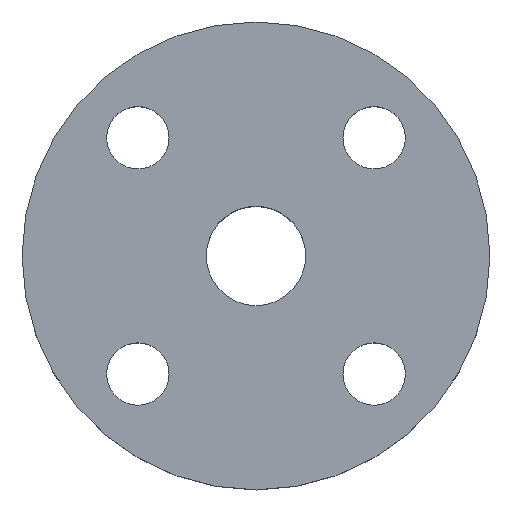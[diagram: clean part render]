
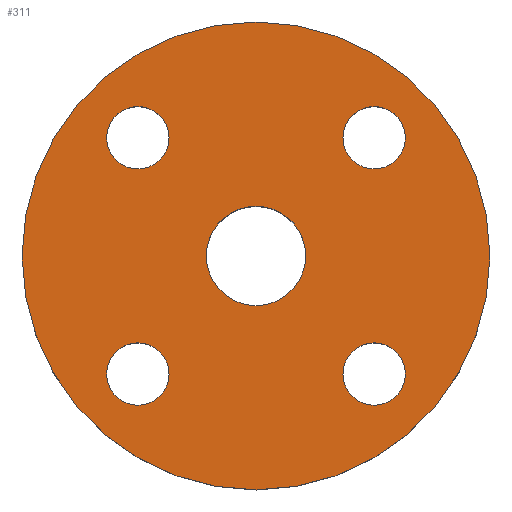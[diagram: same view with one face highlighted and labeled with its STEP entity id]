
A CAD part, top view. The second image highlights one B-rep face of the part: STEP entity #311.
In plain terms, the highlighted planar face has unit normal (0, 0, 1).
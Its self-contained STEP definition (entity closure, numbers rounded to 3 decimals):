
#28 = EDGE_LOOP ( 'NONE', ( #104, #120 ) ) ;
#34 = EDGE_CURVE ( 'NONE', #251, #446, #50, .T. ) ;
#46 = AXIS2_PLACEMENT_3D ( 'NONE', #606, #604, #603 ) ;
#50 = CIRCLE ( 'NONE', #685, 7. ) ;
#54 = CARTESIAN_POINT ( 'NONE',  ( 19.517, -26.517, 0. ) ) ;
#55 = CARTESIAN_POINT ( 'NONE',  ( -19.517, 26.517, 0. ) ) ;
#56 = CARTESIAN_POINT ( 'NONE',  ( -33.517, 26.517, 0. ) ) ;
#57 = CARTESIAN_POINT ( 'NONE',  ( -33.517, -26.517, 0. ) ) ;
#63 = CARTESIAN_POINT ( 'NONE',  ( 19.517, 26.517, 0. ) ) ;
#71 = CARTESIAN_POINT ( 'NONE',  ( -19.517, -26.517, 0. ) ) ;
#83 = AXIS2_PLACEMENT_3D ( 'NONE', #702, #670, #692 ) ;
#86 = ORIENTED_EDGE ( 'NONE', *, *, #400, .T. ) ;
#89 = ORIENTED_EDGE ( 'NONE', *, *, #651, .T. ) ;
#94 = EDGE_CURVE ( 'NONE', #262, #266, #441, .T. ) ;
#96 = ORIENTED_EDGE ( 'NONE', *, *, #611, .T. ) ;
#97 = ORIENTED_EDGE ( 'NONE', *, *, #402, .T. ) ;
#99 = CARTESIAN_POINT ( 'NONE',  ( -52.5, 0., 0. ) ) ;
#100 = CARTESIAN_POINT ( 'NONE',  ( 0., 0., 0. ) ) ;
#101 = ORIENTED_EDGE ( 'NONE', *, *, #135, .T. ) ;
#102 = ORIENTED_EDGE ( 'NONE', *, *, #574, .T. ) ;
#103 = DIRECTION ( 'NONE',  ( 0., 0., -1. ) ) ;
#104 = ORIENTED_EDGE ( 'NONE', *, *, #392, .T. ) ;
#105 = DIRECTION ( 'NONE',  ( -1., 0., 0. ) ) ;
#113 = CARTESIAN_POINT ( 'NONE',  ( 52.5, 0., 0. ) ) ;
#118 = CARTESIAN_POINT ( 'NONE',  ( 33.517, -26.517, 0. ) ) ;
#120 = ORIENTED_EDGE ( 'NONE', *, *, #34, .T. ) ;
#122 = CARTESIAN_POINT ( 'NONE',  ( -11.15, 0., 0. ) ) ;
#127 = ORIENTED_EDGE ( 'NONE', *, *, #263, .T. ) ;
#129 = ORIENTED_EDGE ( 'NONE', *, *, #674, .T. ) ;
#134 = ORIENTED_EDGE ( 'NONE', *, *, #694, .T. ) ;
#135 = EDGE_CURVE ( 'NONE', #216, #220, #388, .T. ) ;
#145 = CIRCLE ( 'NONE', #46, 52.5 ) ;
#146 = ORIENTED_EDGE ( 'NONE', *, *, #94, .T. ) ;
#156 = CIRCLE ( 'NONE', #175, 11.15 ) ;
#175 = AXIS2_PLACEMENT_3D ( 'NONE', #613, #608, #607 ) ;
#176 = AXIS2_PLACEMENT_3D ( 'NONE', #322, #327, #329 ) ;
#214 = VERTEX_POINT ( 'NONE', #54 ) ;
#216 = VERTEX_POINT ( 'NONE', #55 ) ;
#220 = VERTEX_POINT ( 'NONE', #56 ) ;
#226 = FACE_BOUND ( 'NONE', #245, .T. ) ;
#229 = VERTEX_POINT ( 'NONE', #57 ) ;
#230 = FACE_BOUND ( 'NONE', #274, .T. ) ;
#231 = FACE_BOUND ( 'NONE', #252, .T. ) ;
#238 = FACE_BOUND ( 'NONE', #28, .T. ) ;
#244 = FACE_BOUND ( 'NONE', #293, .T. ) ;
#245 = EDGE_LOOP ( 'NONE', ( #86, #89 ) ) ;
#246 = FACE_OUTER_BOUND ( 'NONE', #433, .T. ) ;
#247 = PLANE ( 'NONE',  #729 ) ;
#251 = VERTEX_POINT ( 'NONE', #63 ) ;
#252 = EDGE_LOOP ( 'NONE', ( #101, #102 ) ) ;
#255 = VERTEX_POINT ( 'NONE', #71 ) ;
#262 = VERTEX_POINT ( 'NONE', #99 ) ;
#263 = EDGE_CURVE ( 'NONE', #279, #445, #460, .T. ) ;
#266 = VERTEX_POINT ( 'NONE', #113 ) ;
#274 = EDGE_LOOP ( 'NONE', ( #96, #97 ) ) ;
#276 = VERTEX_POINT ( 'NONE', #118 ) ;
#279 = VERTEX_POINT ( 'NONE', #122 ) ;
#280 = CARTESIAN_POINT ( 'NONE',  ( 0., 0., 0. ) ) ;
#285 = DIRECTION ( 'NONE',  ( 0., 0., 1. ) ) ;
#293 = EDGE_LOOP ( 'NONE', ( #127, #129 ) ) ;
#299 = DIRECTION ( 'NONE',  ( 1., 0., 0. ) ) ;
#311 = ADVANCED_FACE ( 'NONE', ( #226, #230, #231, #238, #244, #246 ), #247, .T. ) ;
#322 = CARTESIAN_POINT ( 'NONE',  ( 26.517, 26.517, 0. ) ) ;
#327 = DIRECTION ( 'NONE',  ( 0., 0., -1. ) ) ;
#329 = DIRECTION ( 'NONE',  ( -1., 0., 0. ) ) ;
#336 = CARTESIAN_POINT ( 'NONE',  ( 26.517, 26.517, 0. ) ) ;
#338 = DIRECTION ( 'NONE',  ( 0., 0., -1. ) ) ;
#341 = DIRECTION ( 'NONE',  ( -1., 0., 0. ) ) ;
#346 = CARTESIAN_POINT ( 'NONE',  ( 26.517, -26.517, 0. ) ) ;
#347 = DIRECTION ( 'NONE',  ( 0., 0., -1. ) ) ;
#348 = DIRECTION ( 'NONE',  ( -1., 0., 0. ) ) ;
#352 = CARTESIAN_POINT ( 'NONE',  ( -26.517, -26.517, 0. ) ) ;
#354 = DIRECTION ( 'NONE',  ( 0., 0., -1. ) ) ;
#358 = DIRECTION ( 'NONE',  ( -1., 0., 0. ) ) ;
#382 = CARTESIAN_POINT ( 'NONE',  ( 11.15, 0., 0. ) ) ;
#384 = CARTESIAN_POINT ( 'NONE',  ( 33.517, 26.517, 0. ) ) ;
#388 = CIRCLE ( 'NONE', #577, 7. ) ;
#392 = EDGE_CURVE ( 'NONE', #446, #251, #621, .T. ) ;
#400 = EDGE_CURVE ( 'NONE', #276, #214, #438, .T. ) ;
#402 = EDGE_CURVE ( 'NONE', #229, #255, #727, .T. ) ;
#408 = CARTESIAN_POINT ( 'NONE',  ( 0., 0., 0. ) ) ;
#409 = DIRECTION ( 'NONE',  ( 0., 0., 1. ) ) ;
#411 = DIRECTION ( 'NONE',  ( 1., 0., 0. ) ) ;
#433 = EDGE_LOOP ( 'NONE', ( #134, #146 ) ) ;
#438 = CIRCLE ( 'NONE', #487, 7. ) ;
#441 = CIRCLE ( 'NONE', #735, 52.5 ) ;
#445 = VERTEX_POINT ( 'NONE', #382 ) ;
#446 = VERTEX_POINT ( 'NONE', #384 ) ;
#460 = CIRCLE ( 'NONE', #502, 11.15 ) ;
#487 = AXIS2_PLACEMENT_3D ( 'NONE', #346, #347, #348 ) ;
#489 = DIRECTION ( 'NONE',  ( 0., 0., -1. ) ) ;
#490 = CARTESIAN_POINT ( 'NONE',  ( -26.517, 26.517, 0. ) ) ;
#495 = DIRECTION ( 'NONE',  ( -1., 0., 0. ) ) ;
#502 = AXIS2_PLACEMENT_3D ( 'NONE', #100, #103, #105 ) ;
#511 = CIRCLE ( 'NONE', #83, 7. ) ;
#512 = AXIS2_PLACEMENT_3D ( 'NONE', #352, #354, #358 ) ;
#543 = CIRCLE ( 'NONE', #666, 7. ) ;
#574 = EDGE_CURVE ( 'NONE', #220, #216, #511, .T. ) ;
#577 = AXIS2_PLACEMENT_3D ( 'NONE', #490, #489, #495 ) ;
#603 = DIRECTION ( 'NONE',  ( 1., 0., 0. ) ) ;
#604 = DIRECTION ( 'NONE',  ( 0., 0., 1. ) ) ;
#606 = CARTESIAN_POINT ( 'NONE',  ( 0., 0., 0. ) ) ;
#607 = DIRECTION ( 'NONE',  ( -1., 0., 0. ) ) ;
#608 = DIRECTION ( 'NONE',  ( 0., 0., -1. ) ) ;
#611 = EDGE_CURVE ( 'NONE', #255, #229, #733, .T. ) ;
#613 = CARTESIAN_POINT ( 'NONE',  ( 0., 0., 0. ) ) ;
#619 = DIRECTION ( 'NONE',  ( -1., 0., 0. ) ) ;
#620 = DIRECTION ( 'NONE',  ( 0., 0., -1. ) ) ;
#621 = CIRCLE ( 'NONE', #176, 7. ) ;
#622 = CARTESIAN_POINT ( 'NONE',  ( 26.517, -26.517, 0. ) ) ;
#635 = DIRECTION ( 'NONE',  ( -1., 0., 0. ) ) ;
#636 = DIRECTION ( 'NONE',  ( 0., 0., -1. ) ) ;
#640 = CARTESIAN_POINT ( 'NONE',  ( -26.517, -26.517, 0. ) ) ;
#651 = EDGE_CURVE ( 'NONE', #214, #276, #543, .T. ) ;
#666 = AXIS2_PLACEMENT_3D ( 'NONE', #622, #620, #619 ) ;
#670 = DIRECTION ( 'NONE',  ( 0., 0., -1. ) ) ;
#674 = EDGE_CURVE ( 'NONE', #445, #279, #156, .T. ) ;
#685 = AXIS2_PLACEMENT_3D ( 'NONE', #336, #338, #341 ) ;
#692 = DIRECTION ( 'NONE',  ( -1., 0., 0. ) ) ;
#694 = EDGE_CURVE ( 'NONE', #266, #262, #145, .T. ) ;
#702 = CARTESIAN_POINT ( 'NONE',  ( -26.517, 26.517, 0. ) ) ;
#705 = AXIS2_PLACEMENT_3D ( 'NONE', #640, #636, #635 ) ;
#727 = CIRCLE ( 'NONE', #512, 7. ) ;
#729 = AXIS2_PLACEMENT_3D ( 'NONE', #280, #285, #299 ) ;
#733 = CIRCLE ( 'NONE', #705, 7. ) ;
#735 = AXIS2_PLACEMENT_3D ( 'NONE', #408, #409, #411 ) ;
